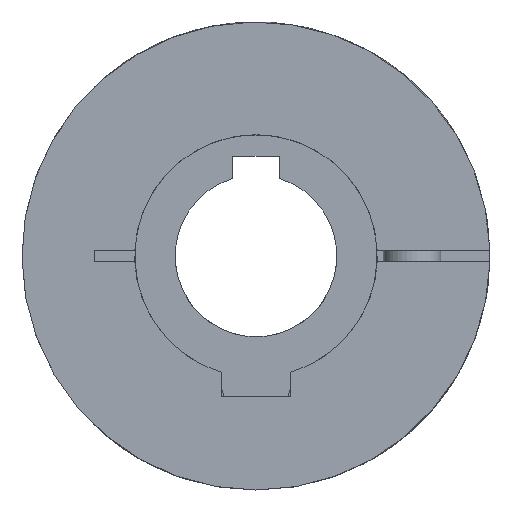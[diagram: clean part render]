
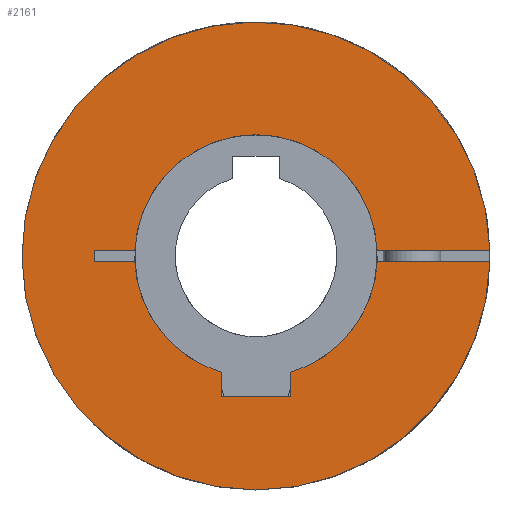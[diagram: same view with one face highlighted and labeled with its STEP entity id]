
A CAD part, left-side view. The second image highlights one B-rep face of the part: STEP entity #2161.
In plain terms, the highlighted planar face has unit normal (-1, 0, 0).
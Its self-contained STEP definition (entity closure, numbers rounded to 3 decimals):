
#97=PLANE('',#2514);
#280=FACE_OUTER_BOUND('',#417,.T.);
#417=EDGE_LOOP('',(#1866,#1867,#1868,#1869,#1870,#1871,#1872,#1873,#1874,
#1875,#1876,#1877,#1878));
#560=LINE('',#4059,#679);
#563=LINE('',#4065,#682);
#564=LINE('',#4067,#683);
#566=LINE('',#4070,#685);
#568=LINE('',#4074,#687);
#571=LINE('',#4080,#690);
#572=LINE('',#4081,#691);
#573=LINE('',#4082,#692);
#679=VECTOR('',#3128,1.);
#682=VECTOR('',#3133,1.);
#683=VECTOR('',#3136,1.);
#685=VECTOR('',#3140,33.559);
#687=VECTOR('',#3144,21.072);
#690=VECTOR('',#3149,21.072);
#691=VECTOR('',#3150,2.);
#692=VECTOR('',#3151,33.559);
#854=CIRCLE('',#2487,40.5);
#856=CIRCLE('',#2489,40.5);
#866=CIRCLE('',#2503,21.);
#868=CIRCLE('',#2505,21.);
#869=CIRCLE('',#2507,21.);
#1057=VERTEX_POINT('',#3953);
#1058=VERTEX_POINT('',#3954);
#1060=VERTEX_POINT('',#3959);
#1074=VERTEX_POINT('',#4032);
#1075=VERTEX_POINT('',#4034);
#1078=VERTEX_POINT('',#4040);
#1079=VERTEX_POINT('',#4042);
#1080=VERTEX_POINT('',#4046);
#1081=VERTEX_POINT('',#4047);
#1085=VERTEX_POINT('',#4057);
#1087=VERTEX_POINT('',#4063);
#1088=VERTEX_POINT('',#4073);
#1090=VERTEX_POINT('',#4079);
#1339=EDGE_CURVE('',#1057,#1058,#854,.T.);
#1342=EDGE_CURVE('',#1058,#1060,#856,.T.);
#1360=EDGE_CURVE('',#1075,#1074,#866,.T.);
#1364=EDGE_CURVE('',#1079,#1078,#868,.T.);
#1366=EDGE_CURVE('',#1080,#1081,#869,.T.);
#1372=EDGE_CURVE('',#1078,#1085,#560,.T.);
#1375=EDGE_CURVE('',#1085,#1087,#563,.T.);
#1376=EDGE_CURVE('',#1087,#1075,#564,.T.);
#1378=EDGE_CURVE('',#1057,#1079,#566,.T.);
#1380=EDGE_CURVE('',#1088,#1080,#568,.T.);
#1383=EDGE_CURVE('',#1090,#1074,#571,.T.);
#1384=EDGE_CURVE('',#1090,#1088,#572,.T.);
#1385=EDGE_CURVE('',#1060,#1081,#573,.T.);
#1866=ORIENTED_EDGE('',*,*,#1364,.T.);
#1867=ORIENTED_EDGE('',*,*,#1372,.T.);
#1868=ORIENTED_EDGE('',*,*,#1375,.T.);
#1869=ORIENTED_EDGE('',*,*,#1376,.T.);
#1870=ORIENTED_EDGE('',*,*,#1360,.T.);
#1871=ORIENTED_EDGE('',*,*,#1383,.F.);
#1872=ORIENTED_EDGE('',*,*,#1384,.T.);
#1873=ORIENTED_EDGE('',*,*,#1380,.T.);
#1874=ORIENTED_EDGE('',*,*,#1366,.T.);
#1875=ORIENTED_EDGE('',*,*,#1385,.F.);
#1876=ORIENTED_EDGE('',*,*,#1342,.F.);
#1877=ORIENTED_EDGE('',*,*,#1339,.F.);
#1878=ORIENTED_EDGE('',*,*,#1378,.T.);
#2161=ADVANCED_FACE('',(#280),#97,.T.);
#2487=AXIS2_PLACEMENT_3D('',#3955,#3068,#3069);
#2489=AXIS2_PLACEMENT_3D('',#3960,#3073,#3074);
#2503=AXIS2_PLACEMENT_3D('',#4035,#3107,#3108);
#2505=AXIS2_PLACEMENT_3D('',#4043,#3113,#3114);
#2507=AXIS2_PLACEMENT_3D('',#4048,#3118,#3119);
#2514=AXIS2_PLACEMENT_3D('',#4078,#3147,#3148);
#3068=DIRECTION('center_axis',(1.,0.,0.));
#3069=DIRECTION('ref_axis',(0.,0.,1.));
#3073=DIRECTION('center_axis',(1.,0.,0.));
#3074=DIRECTION('ref_axis',(0.,0.,1.));
#3107=DIRECTION('center_axis',(1.,0.,0.));
#3108=DIRECTION('ref_axis',(0.,0.,-1.));
#3113=DIRECTION('center_axis',(1.,0.,0.));
#3114=DIRECTION('ref_axis',(0.,0.,-1.));
#3118=DIRECTION('center_axis',(1.,0.,0.));
#3119=DIRECTION('ref_axis',(0.,0.,-1.));
#3128=DIRECTION('',(0.,0.,-1.));
#3133=DIRECTION('',(0.,1.,0.));
#3136=DIRECTION('',(0.,0.,1.));
#3140=DIRECTION('',(0.,1.,0.));
#3144=DIRECTION('',(0.,-1.,0.));
#3147=DIRECTION('center_axis',(-1.,0.,0.));
#3148=DIRECTION('ref_axis',(0.,-1.,0.));
#3149=DIRECTION('',(0.,-1.,0.));
#3150=DIRECTION('',(0.,0.,1.));
#3151=DIRECTION('',(0.,1.,0.));
#3953=CARTESIAN_POINT('',(0.,-40.488,-1.));
#3954=CARTESIAN_POINT('',(0.,0.,-40.5));
#3955=CARTESIAN_POINT('Origin',(0.,0.,0.));
#3959=CARTESIAN_POINT('',(0.,-40.488,1.));
#3960=CARTESIAN_POINT('Origin',(0.,0.,0.));
#4032=CARTESIAN_POINT('',(0.,20.976,-1.));
#4034=CARTESIAN_POINT('',(0.,6.,-20.125));
#4035=CARTESIAN_POINT('Origin',(0.,0.,0.));
#4040=CARTESIAN_POINT('',(0.,-6.,-20.125));
#4042=CARTESIAN_POINT('',(0.,-20.976,-1.));
#4043=CARTESIAN_POINT('Origin',(0.,0.,0.));
#4046=CARTESIAN_POINT('',(0.,20.976,1.));
#4047=CARTESIAN_POINT('',(0.,-20.976,1.));
#4048=CARTESIAN_POINT('Origin',(0.,0.,0.));
#4057=CARTESIAN_POINT('',(0.,-6.,-24.3));
#4059=CARTESIAN_POINT('',(0.,-6.,-6.075));
#4063=CARTESIAN_POINT('',(0.,6.,-24.3));
#4065=CARTESIAN_POINT('',(0.,0.,-24.3));
#4067=CARTESIAN_POINT('',(0.,6.,-6.075));
#4070=CARTESIAN_POINT('',(0.,-40.488,-1.));
#4073=CARTESIAN_POINT('',(0.,28.,1.));
#4074=CARTESIAN_POINT('',(0.,28.,1.));
#4078=CARTESIAN_POINT('Origin',(0.,0.,0.));
#4079=CARTESIAN_POINT('',(0.,28.,-1.));
#4080=CARTESIAN_POINT('',(0.,28.,-1.));
#4081=CARTESIAN_POINT('',(0.,28.,-1.));
#4082=CARTESIAN_POINT('',(0.,-40.488,1.));
